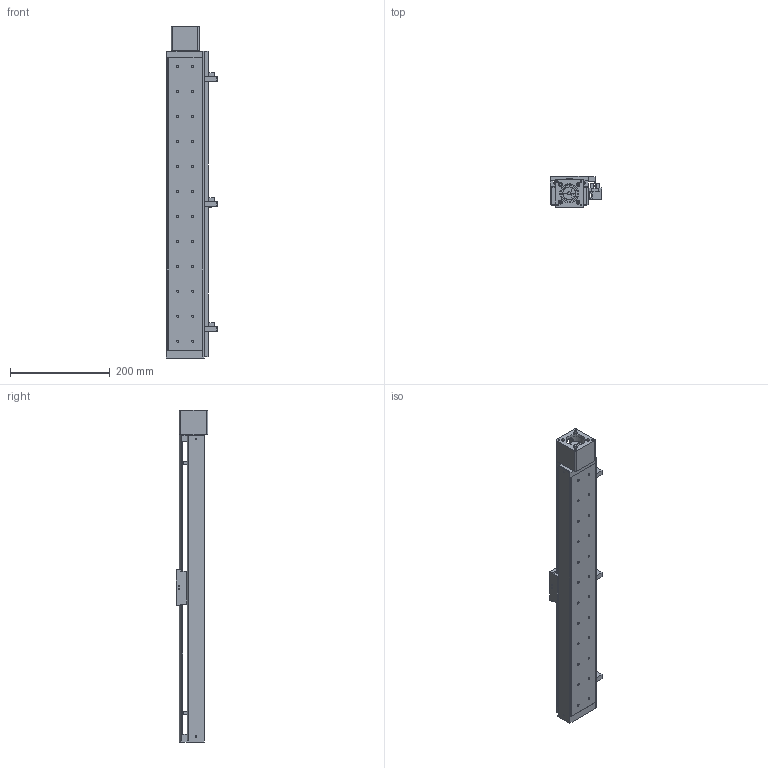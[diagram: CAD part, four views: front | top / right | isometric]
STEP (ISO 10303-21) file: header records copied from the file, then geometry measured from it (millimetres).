
FILE_DESCRIPTION((''),'2;1');
FILE_NAME('E:\uia actuator\UIA actuator 3d- 2009\Standard ball screw actuator\UIA076R9DC\UIA076R9DC-STEP file\with motor mount\UIA076R9DC step file 18Apr16\UIA076R9DC-500-R1205(or R1210)-M23-P13-C10-S.stp','2016-04-20T09:01:36',('h029'),(''),'Autodesk Inventor 11','Autodesk Inventor 11','');
FILE_SCHEMA(('AUTOMOTIVE_DESIGN { 1 0 10303 214 1 1 1 1 }'));
Length unit declared in the file: millimetre
Products named in the file (10): UIA076R9DC-500-R1205(or R1210)-M23-P13-C10-S; UIA076R9DC-500-BODY; UIA076R9DC-500-sensor rail; UIA076R9DC-CARRIAGE; UIA076R9DC-SENSOR FLAG; 01-100 0110 Motor MOUNT-M23; SOH-25C; SOH-25C-2; SOH-25C-3; SOH-25C-1
Assembly tree (9 placements, depth 3):
  UIA076R9DC-500-R1205(or R1210)-M23-P13-C10-S
    UIA076R9DC-500-BODY
    UIA076R9DC-500-sensor rail
    UIA076R9DC-CARRIAGE
    UIA076R9DC-SENSOR FLAG
    01-100 0110 Motor MOUNT-M23
    SOH-25C
      SOH-25C-2
      SOH-25C-3
      SOH-25C-1
Bounding box: 103 x 63 x 664.2 mm (x, y, z)
Volume: 974599.8 mm3; surface area: 395014.2 mm2
Topology: 8 solids, 8 shells, 452 faces, 1239 edges, 816 vertices
Faces by surface type: plane 299, cylinder 125, cone 21, bspline 7
Full cylindrical faces by diameter (mm): 2.459 x8, 3 x2, 3.242 x16, 3.5 x4, 4 x6, 4.5 x28, 6 x2, 7.5 x28, 22 x1, 25.5 x3, 32 x1, 37 x1, 38.1 x1
Entity records: 14170 total; most frequent: CARTESIAN_POINT 2776, DIRECTION 2274, ORIENTED_EDGE 2128, EDGE_CURVE 1064, VERTEX_POINT 769, VECTOR 760, LINE 760, AXIS2_PLACEMENT_3D 757
